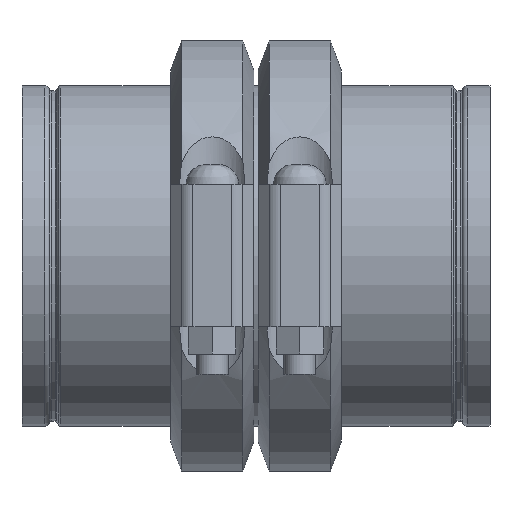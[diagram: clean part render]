
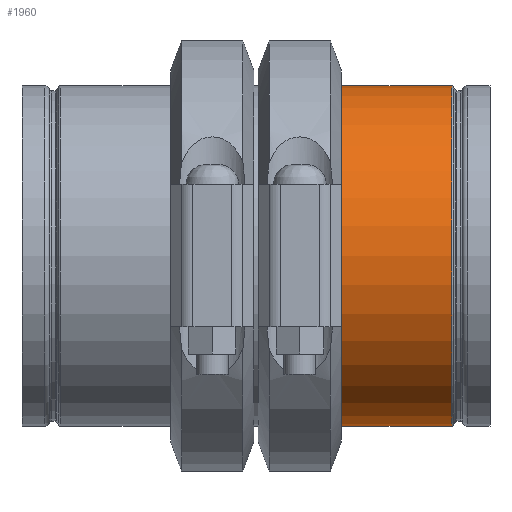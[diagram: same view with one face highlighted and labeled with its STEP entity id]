
A CAD part, top view. The second image highlights one B-rep face of the part: STEP entity #1960.
In plain terms, the highlighted cylindrical face has radius 136.525 mm (diameter 273.05 mm), a full revolution.
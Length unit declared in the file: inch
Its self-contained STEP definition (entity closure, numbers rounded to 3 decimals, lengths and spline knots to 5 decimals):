
#74=LINE('',#3196,#167);
#167=VECTOR('',#2563,5.375);
#260=CYLINDRICAL_SURFACE('',#2205,5.375);
#376=FACE_OUTER_BOUND('',#484,.T.);
#484=EDGE_LOOP('',(#1350,#1351,#1352,#1353,#1354,#1355,#1356,#1357));
#639=CIRCLE('',#2201,5.375);
#640=CIRCLE('',#2202,5.375);
#642=CIRCLE('',#2204,5.375);
#643=CIRCLE('',#2206,5.375);
#644=CIRCLE('',#2207,5.375);
#645=CIRCLE('',#2208,5.375);
#804=VERTEX_POINT('',#3183);
#805=VERTEX_POINT('',#3184);
#806=VERTEX_POINT('',#3186);
#807=VERTEX_POINT('',#3191);
#808=VERTEX_POINT('',#3192);
#809=VERTEX_POINT('',#3194);
#1019=EDGE_CURVE('',#804,#805,#639,.T.);
#1020=EDGE_CURVE('',#805,#806,#640,.T.);
#1022=EDGE_CURVE('',#806,#804,#642,.T.);
#1023=EDGE_CURVE('',#807,#808,#643,.T.);
#1024=EDGE_CURVE('',#809,#807,#644,.T.);
#1025=EDGE_CURVE('',#809,#805,#74,.T.);
#1026=EDGE_CURVE('',#808,#809,#645,.T.);
#1350=ORIENTED_EDGE('',*,*,#1023,.F.);
#1351=ORIENTED_EDGE('',*,*,#1024,.F.);
#1352=ORIENTED_EDGE('',*,*,#1025,.T.);
#1353=ORIENTED_EDGE('',*,*,#1019,.F.);
#1354=ORIENTED_EDGE('',*,*,#1022,.F.);
#1355=ORIENTED_EDGE('',*,*,#1020,.F.);
#1356=ORIENTED_EDGE('',*,*,#1025,.F.);
#1357=ORIENTED_EDGE('',*,*,#1026,.F.);
#1960=ADVANCED_FACE('',(#376),#260,.T.);
#2201=AXIS2_PLACEMENT_3D('',#3185,#2549,#2550);
#2202=AXIS2_PLACEMENT_3D('',#3187,#2551,#2552);
#2204=AXIS2_PLACEMENT_3D('',#3189,#2555,#2556);
#2205=AXIS2_PLACEMENT_3D('',#3190,#2557,#2558);
#2206=AXIS2_PLACEMENT_3D('',#3193,#2559,#2560);
#2207=AXIS2_PLACEMENT_3D('',#3195,#2561,#2562);
#2208=AXIS2_PLACEMENT_3D('',#3197,#2564,#2565);
#2549=DIRECTION('center_axis',(-1.,0.,0.));
#2550=DIRECTION('ref_axis',(0.,-1.,0.));
#2551=DIRECTION('center_axis',(-1.,0.,0.));
#2552=DIRECTION('ref_axis',(0.,-1.,0.));
#2555=DIRECTION('center_axis',(-1.,0.,0.));
#2556=DIRECTION('ref_axis',(0.,-1.,0.));
#2557=DIRECTION('center_axis',(1.,0.,0.));
#2558=DIRECTION('ref_axis',(0.,1.,0.));
#2559=DIRECTION('center_axis',(1.,0.,0.));
#2560=DIRECTION('ref_axis',(0.,-1.,0.));
#2561=DIRECTION('center_axis',(1.,0.,0.));
#2562=DIRECTION('ref_axis',(0.,-1.,0.));
#2563=DIRECTION('',(-1.,0.,0.));
#2564=DIRECTION('center_axis',(1.,0.,0.));
#2565=DIRECTION('ref_axis',(0.,-1.,0.));
#3183=CARTESIAN_POINT('',(1.249,5.375,0.));
#3184=CARTESIAN_POINT('',(1.249,-5.375,0.));
#3185=CARTESIAN_POINT('Origin',(1.249,0.,0.));
#3186=CARTESIAN_POINT('',(1.249,0.,5.375));
#3187=CARTESIAN_POINT('Origin',(1.249,0.,0.));
#3189=CARTESIAN_POINT('Origin',(1.249,0.,0.));
#3190=CARTESIAN_POINT('Origin',(3.01773,0.,0.));
#3191=CARTESIAN_POINT('',(4.78523,5.375,0.));
#3192=CARTESIAN_POINT('',(4.78523,0.,5.375));
#3193=CARTESIAN_POINT('Origin',(4.78523,0.,0.));
#3194=CARTESIAN_POINT('',(4.78523,-5.375,0.));
#3195=CARTESIAN_POINT('Origin',(4.78523,0.,0.));
#3196=CARTESIAN_POINT('',(3.01773,-5.375,0.));
#3197=CARTESIAN_POINT('Origin',(4.78523,0.,0.));
